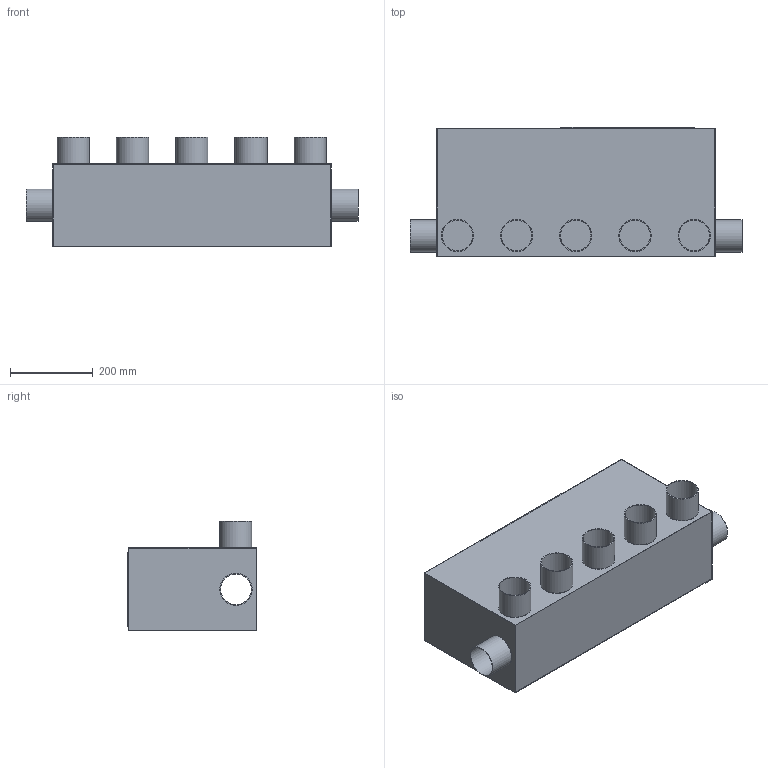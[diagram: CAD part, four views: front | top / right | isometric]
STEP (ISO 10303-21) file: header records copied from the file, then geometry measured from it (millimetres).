
FILE_DESCRIPTION(/* description */ (''),/* implementation_level */ '2;1');
FILE_NAME(/* name */ 'Z:\Output\FRS-MVK_5-2-75_160-03836-001.stp',/* time_stamp */ '2017-09-13T14:27:09+02:00',/* author */ ('Engineering1'),/* organization */ (''),/* preprocessor_version */ 'ST-DEVELOPER v16.5',/* originating_system */ 'Autodesk Inventor 2017',/* authorisation */ '');
FILE_SCHEMA (('AUTOMOTIVE_DESIGN { 1 0 10303 214 3 1 1 }'));
Length unit declared in the file: millimetre
Products named in the file (1): FRS-MVK-_5-2-75_H
Bounding box: 802 x 312.5 x 264.5 mm (x, y, z)
Volume: 1096689.2 mm3; surface area: 1695661.2 mm2
Topology: 1 solids, 1 shells, 62 faces, 123 edges, 82 vertices
Faces by surface type: plane 33, cylinder 29
Full cylindrical faces by diameter (mm): 74 x7, 76 x7, 78 x7, 160 x2, 162 x2
Entity records: 1562 total; most frequent: DIRECTION 282, CARTESIAN_POINT 243, ORIENTED_EDGE 196, EDGE_LOOP 122, AXIS2_PLACEMENT_3D 121, EDGE_CURVE 98, VERTEX_POINT 82, FACE_OUTER_BOUND 62
